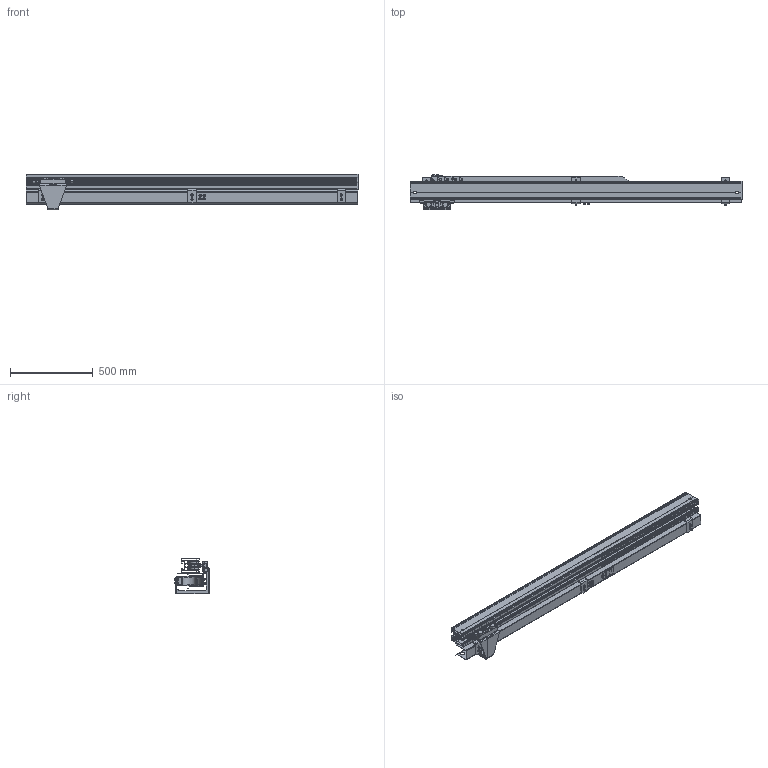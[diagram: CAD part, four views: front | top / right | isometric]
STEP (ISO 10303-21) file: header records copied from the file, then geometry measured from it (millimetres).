
FILE_DESCRIPTION (( 'STEP AP203' ), '1' );
FILE_NAME ('900.040.060.100.STEP', '2018-02-27T08:21:13', ( '' ), ( '' ), 'SwSTEP 2.0', 'SolidWorks 2016', '' );
FILE_SCHEMA (( 'CONFIG_CONTROL_DESIGN' ));
Length unit declared in the file: millimetre
Products named in the file (30): 900.040.060.101_Default<A macchina>; VITI TE UNI 5739_M20X60 UNI 5739; CUSCINETTI A SFERE_686-ZZ; DADI ESAGONALI AUTOBLOCCANTI UNI 7473_M6 UNI 7473; 900.200.101-1; CUSCINETTI A SFERE_6002-2Z; 900.040.060.102; 3; 084.301.000 VITI ALUSIC_084.301.011; 900.200.002-1; 2; RONDELLE UNI 6592_6.4x12.5 UNI 6592; 900.040.060.2000-L; circlip for shafts normal_din_Circlip DIN 471 - 8 x 0.8; RONDELLE UNI 6592 INOX_6.4x12.5 UNI 6592 INOX; VITI TESTA BOMBATA ISO 730 INOX_M6x20 ISO 7380 INOX; 900.040.060.100; PROFILO 110x90_2000<A macchina>; 1; 900.200.003-2; 4; DADO ESAGONALE M20 AUTOBLOCCANTE_M20 UNI7473; SR2350400602000; 900.200.004-2; GRANI A PUNTA CONICA UNI 5927_M6x16 UNI 5927; 5; 900.200.005; 084.301.000 VITI ALUSIC_084.301.001; PUFFER FEMMINA_M6; VITI TE UNI 5739_M6x40 UNI 5739
Assembly tree (118 placements, depth 3):
  900.040.060.100
    900.200.101-1
      900.200.003-2  x8
      900.200.004-2  x2
      900.200.005  x4
      CUSCINETTI A SFERE_6002-2Z  x8
      circlip for shafts normal_din_Circlip DIN 471 - 8 x 0.8  x8
      900.200.002-1
      RONDELLE UNI 6592 INOX_6.4x12.5 UNI 6592 INOX  x4
      CUSCINETTI A SFERE_686-ZZ  x4
      PUFFER FEMMINA_M6  x2
      GRANI A PUNTA CONICA UNI 5927_M6x16 UNI 5927  x2
      VITI TE UNI 5739_M6x40 UNI 5739  x2
    900.040.060.101_Default<A macchina>
    900.040.060.102  x3
    900.040.060.2000-L
    PROFILO 110x90_2000<A macchina>
    VITI TE UNI 5739_M20X60 UNI 5739  x2
    DADO ESAGONALE M20 AUTOBLOCCANTE_M20 UNI7473  x2
    VITI TESTA BOMBATA ISO 730 INOX_M6x20 ISO 7380 INOX  x6
    RONDELLE UNI 6592_6.4x12.5 UNI 6592  x28
    DADI ESAGONALI AUTOBLOCCANTI UNI 7473_M6 UNI 7473  x14
    084.301.000 VITI ALUSIC_084.301.011  x4
    084.301.000 VITI ALUSIC_084.301.001  x4
    SR2350400602000
      1
      2
      3
      4
      5
Bounding box: 2000 x 211.1 x 216 mm (x, y, z)
Volume: 6938785.8 mm3; surface area: 4698379.5 mm2
Topology: 118 solids, 118 shells, 4386 faces, 10788 edges, 6738 vertices
Faces by surface type: cylinder 1622, plane 1566, cone 486, bspline 390, torus 278, sphere 44
Entity records: 119856 total; most frequent: CARTESIAN_POINT 46486, ORIENTED_EDGE 14916, DIRECTION 13280, EDGE_CURVE 7458, AXIS2_PLACEMENT_3D 4827, VERTEX_POINT 4680, LINE 3626, VECTOR 3626
